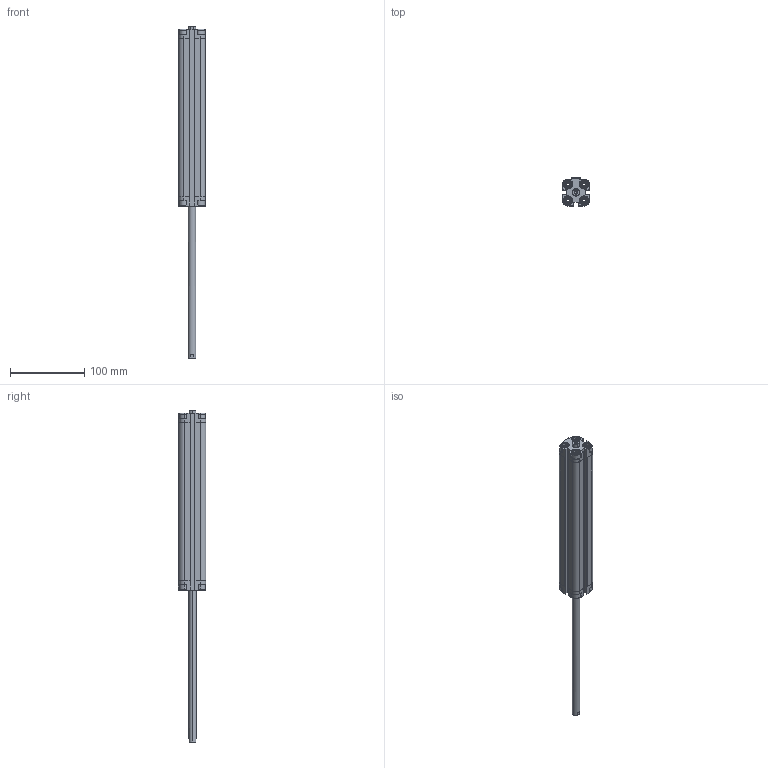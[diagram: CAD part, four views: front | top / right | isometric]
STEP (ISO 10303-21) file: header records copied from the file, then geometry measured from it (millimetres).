
FILE_DESCRIPTION (( 'STEP AP203' ), '1' );
FILE_NAME ('CDVU20-200F-P.STEP', '2020-07-24T18:08:26', ( '' ), ( '' ), 'SwSTEP 2.0', 'SolidWorks 2019', '' );
FILE_SCHEMA (( 'CONFIG_CONTROL_DESIGN' ));
Length unit declared in the file: millimetre
Products named in the file (1): CDVU20-200F-P
Bounding box: 36 x 37.5 x 447 mm (x, y, z)
Volume: 201914.8 mm3; surface area: 98180.1 mm2
Topology: 2 solids, 2 shells, 606 faces, 1598 edges, 1032 vertices
Faces by surface type: plane 358, cylinder 184, cone 48, torus 16
Entity records: 18877 total; most frequent: CARTESIAN_POINT 3805, ORIENTED_EDGE 3180, DIRECTION 3060, EDGE_CURVE 1590, AXIS2_PLACEMENT_3D 1055, VERTEX_POINT 1032, VECTOR 950, LINE 950
